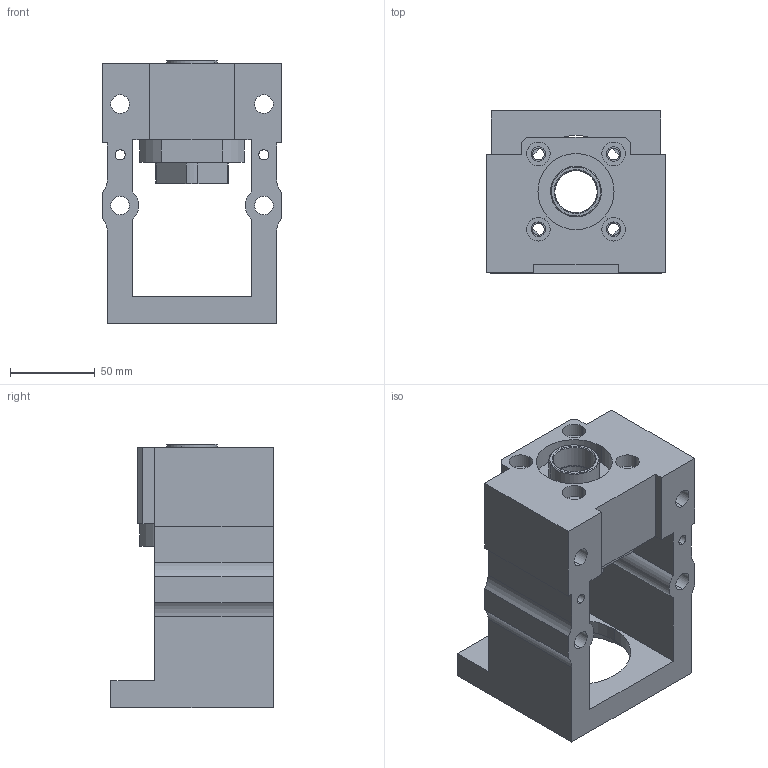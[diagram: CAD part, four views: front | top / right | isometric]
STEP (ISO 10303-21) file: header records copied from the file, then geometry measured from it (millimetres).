
FILE_DESCRIPTION((''),'2;1');
FILE_NAME('M90X-BK25-C_ASM','2019-07-23T',('ASUS'),(''),'PRO/ENGINEER BY PARAMETRIC TECHNOLOGY CORPORATION, 2010280','PRO/ENGINEER BY PARAMETRIC TECHNOLOGY CORPORATION, 2010280','');
FILE_SCHEMA(('CONFIG_CONTROL_DESIGN'));
Length unit declared in the file: millimetre
Products named in the file (6): MBC25-X-02; MBC25-X-03; NRA_M25X1_5; _MBC25-X_STEP; MBC25-X_STEP_ASM; M90X-BK25-C_ASM
Assembly tree (6 placements, depth 3):
  M90X-BK25-C_ASM
    MBC25-X_STEP_ASM
      MBC25-X-02
      MBC25-X-03  x2
      NRA_M25X1_5
      _MBC25-X_STEP
Bounding box: 106 x 96 x 156 mm (x, y, z)
Volume: 591488.5 mm3; surface area: 126902.4 mm2
Topology: 5 solids, 5 shells, 185 faces, 482 edges, 316 vertices
Faces by surface type: cylinder 100, plane 61, cone 24
Entity records: 5731 total; most frequent: CARTESIAN_POINT 1062, DIRECTION 1022, ORIENTED_EDGE 892, EDGE_CURVE 446, AXIS2_PLACEMENT_3D 396, VERTEX_POINT 300, EDGE_LOOP 232, VECTOR 230
